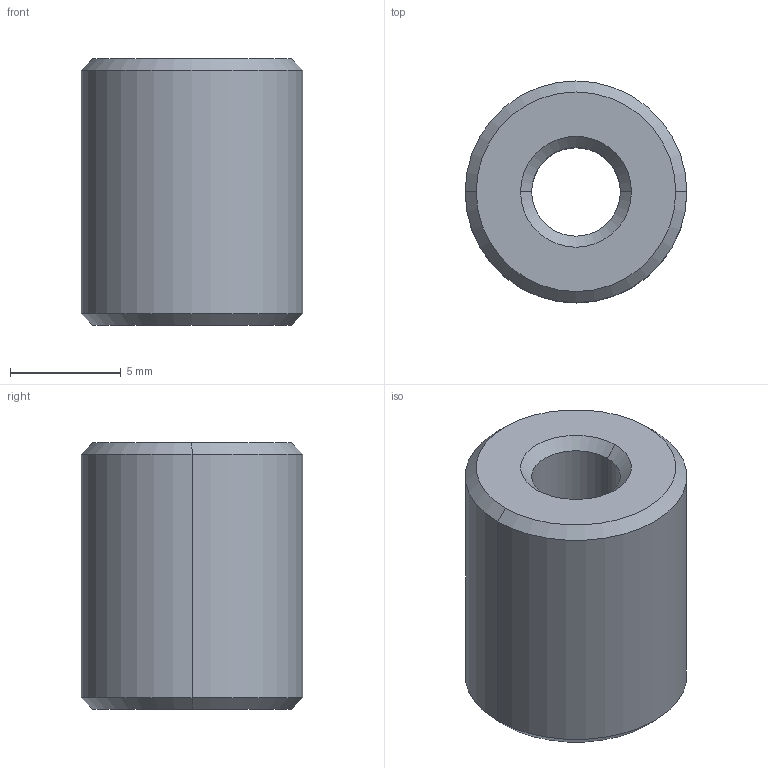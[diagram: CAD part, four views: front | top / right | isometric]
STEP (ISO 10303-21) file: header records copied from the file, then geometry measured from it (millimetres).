
FILE_DESCRIPTION(('STEP AP242'),'1');
FILE_NAME('951-1-g.stp','2023-12-04T09:47:16',('TraceParts'),('TraceParts S.A.'),'Spatial InterOp 3D',' ',' ');
FILE_SCHEMA(('AP242_MANAGED_MODEL_BASED_3D_ENGINEERING_MIM_LF {1 0 10303 442 1 1 4}'));
Length unit declared in the file: millimetre
Products named in the file (1): 951-1-g
Bounding box: 10 x 10 x 12 mm (x, y, z)
Volume: 780.7 mm3; surface area: 634 mm2
Topology: 1 solids, 1 shells, 14 faces, 28 edges, 16 vertices
Faces by surface type: cone 8, cylinder 4, plane 2
Entity records: 393 total; most frequent: DIRECTION 74, CARTESIAN_POINT 59, ORIENTED_EDGE 56, AXIS2_PLACEMENT_3D 31, EDGE_CURVE 28, EDGE_LOOP 16, VERTEX_POINT 16, CIRCLE 16
